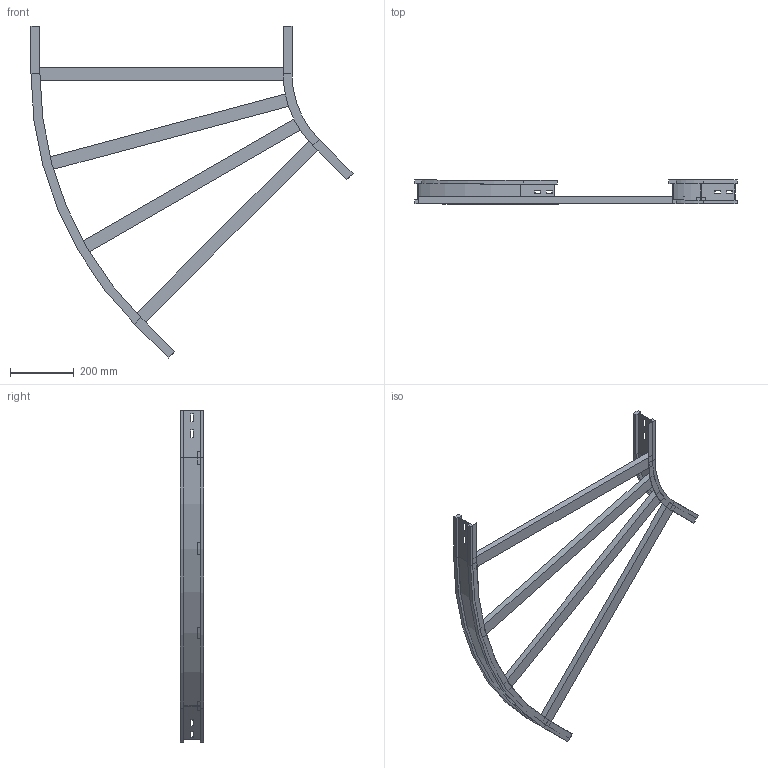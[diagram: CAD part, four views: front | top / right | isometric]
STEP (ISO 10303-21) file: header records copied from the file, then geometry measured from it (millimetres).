
FILE_DESCRIPTION (( 'STEP AP214' ), '1' );
FILE_NAME ('11S3C800.step', '2025-02-21T16:05:49', ( '' ), ( '' ), 'SwSTEP 2.0', 'SolidWorks 2023', '' );
FILE_SCHEMA (( 'AUTOMOTIVE_DESIGN' ));
Length unit declared in the file: millimetre
Products named in the file (4): 11S3C800; LONGH.INTERNO 45°_H75_R300; TRAVERSINO_800; LONGH.ESTERNO 45°_H75_R300+800
Assembly tree (6 placements, depth 2):
  11S3C800
    LONGH.INTERNO 45°_H75_R300
    LONGH.ESTERNO 45°_H75_R300+800
    TRAVERSINO_800  x4
Bounding box: 1009.3 x 75 x 1040.25 mm (x, y, z)
Volume: 3417036.9 mm3; surface area: 811205.7 mm2
Topology: 6 solids, 6 shells, 132 faces, 312 edges, 192 vertices
Faces by surface type: plane 120, cylinder 12
Entity records: 3397 total; most frequent: CARTESIAN_POINT 567, ORIENTED_EDGE 552, DIRECTION 546, EDGE_CURVE 276, LINE 252, VECTOR 252, VERTEX_POINT 168, AXIS2_PLACEMENT_3D 147
